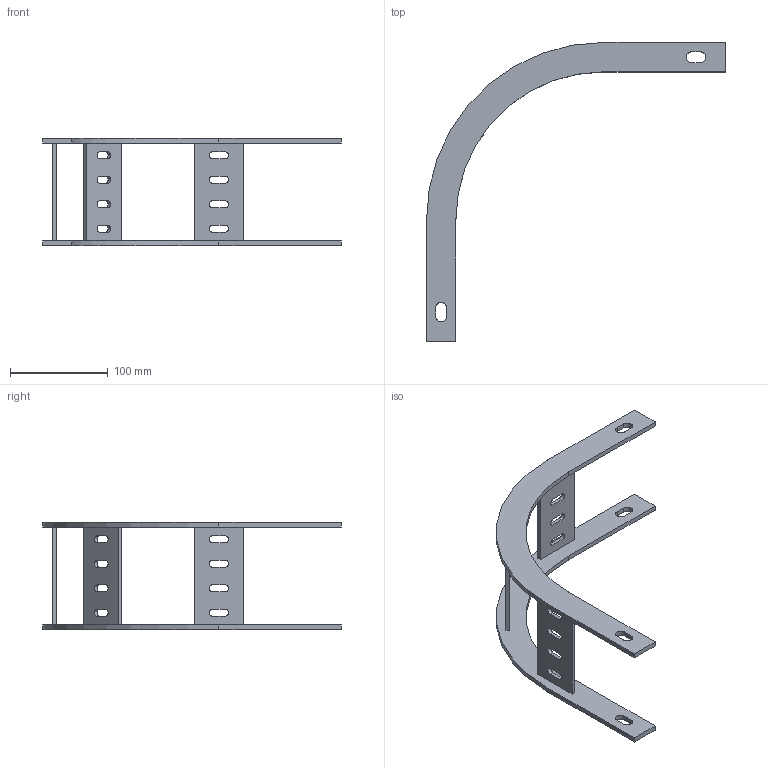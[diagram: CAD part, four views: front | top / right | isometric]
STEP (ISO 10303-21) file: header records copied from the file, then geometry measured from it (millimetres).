
FILE_DESCRIPTION(('Creo Elements/Direct Modeling STEP Export'),'2;1');
FILE_NAME('//pserver/office/EK/ME10-3D/3D-output/SLS 100F.stp','2020-03-10T15:14:32',(''),(''),'PTC Creo Elements/Direct Modeling STEP processor for AP214 (Solid Model)','PTC Creo Elements/Direct Modeling 19.0C 15-Aug-2015 (C) Parametric Technology GmbH','');
FILE_SCHEMA(('AUTOMOTIVE_DESIGN { 1 0 10303 214 1 1 1 1 }'));
Length unit declared in the file: millimetre
Products named in the file (1): SLS_100F
Bounding box: 305 x 305 x 110 mm (x, y, z)
Volume: 202658.5 mm3; surface area: 101780.2 mm2
Topology: 1 solids, 1 shells, 96 faces, 276 edges, 184 vertices
Faces by surface type: plane 60, cylinder 36
Entity records: 3246 total; most frequent: CARTESIAN_POINT 557, ORIENTED_EDGE 552, DIRECTION 542, EDGE_CURVE 276, VECTOR 204, LINE 204, VERTEX_POINT 184, AXIS2_PLACEMENT_3D 169
